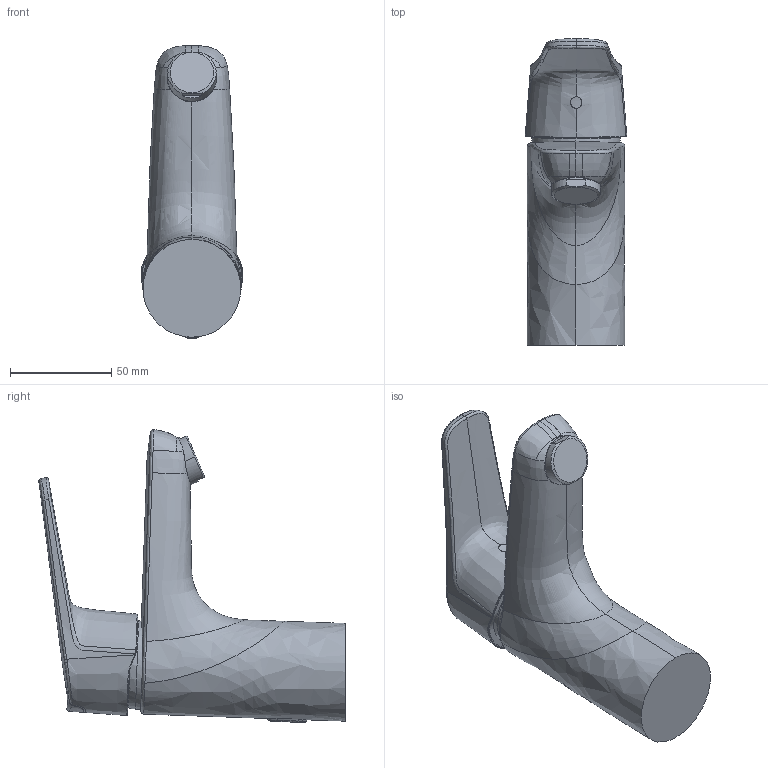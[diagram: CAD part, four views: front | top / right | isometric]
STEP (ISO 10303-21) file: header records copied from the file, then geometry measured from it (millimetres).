
FILE_DESCRIPTION (( 'STEP AP203' ), '1' );
FILE_NAME ('1810GK(2018).STEP', '2018-10-11T03:44:35', ( '' ), ( '' ), 'SwSTEP 2.0', 'SolidWorks 2016', '' );
FILE_SCHEMA (( 'CONFIG_CONTROL_DESIGN' ));
Length unit declared in the file: millimetre
Products named in the file (1): 1810GK(2018)
Bounding box: 49.97 x 151.06 x 144.53 mm (x, y, z)
Volume: 347590.7 mm3; surface area: 40250.2 mm2
Topology: 1 solids, 1 shells, 129 faces, 344 edges, 221 vertices
Faces by surface type: bspline 87, cylinder 18, plane 14, cone 7, sphere 3
Entity records: 27727 total; most frequent: CARTESIAN_POINT 25310, ORIENTED_EDGE 688, EDGE_CURVE 344, B_SPLINE_CURVE_WITH_KNOTS 256, VERTEX_POINT 221, DIRECTION 180, EDGE_LOOP 133, ADVANCED_FACE 129
